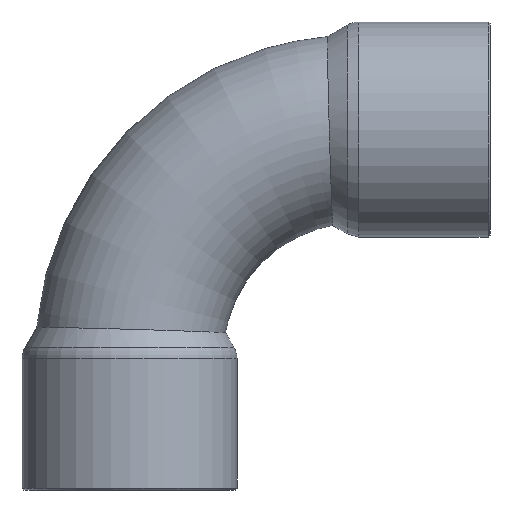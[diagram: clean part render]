
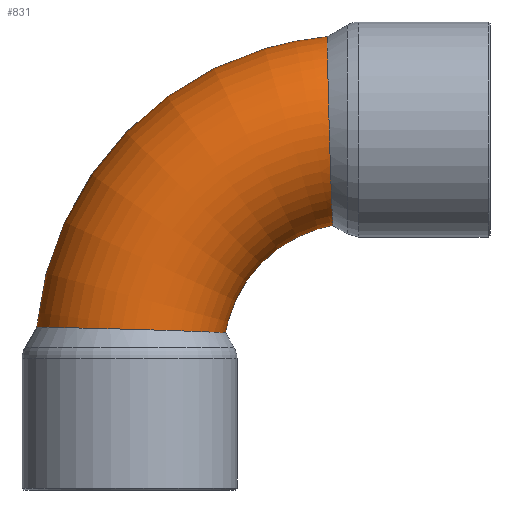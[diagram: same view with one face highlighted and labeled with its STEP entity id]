
A CAD part, left-side view. The second image highlights one B-rep face of the part: STEP entity #831.
In plain terms, the highlighted toroidal (fillet/blend) face has major radius 22.9 mm and minor radius 9.525 mm.
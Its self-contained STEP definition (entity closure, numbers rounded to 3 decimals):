
#444=CARTESIAN_POINT('',(0.,2.896,32.295));
#445=VERTEX_POINT('',#444);
#446=CARTESIAN_POINT('',(0.,2.896,32.295));
#447=CARTESIAN_POINT('',(0.64,2.896,32.295));
#448=CARTESIAN_POINT('',(1.279,2.895,32.231));
#449=CARTESIAN_POINT('',(2.522,2.89,31.976));
#450=CARTESIAN_POINT('',(3.125,2.886,31.789));
#451=CARTESIAN_POINT('',(4.865,2.871,31.053));
#452=CARTESIAN_POINT('',(5.916,2.856,30.337));
#453=CARTESIAN_POINT('',(7.679,2.817,28.536));
#454=CARTESIAN_POINT('',(8.374,2.792,27.469));
#455=CARTESIAN_POINT('',(9.31,2.735,25.125));
#456=CARTESIAN_POINT('',(9.542,2.702,23.871));
#457=CARTESIAN_POINT('',(9.506,2.63,21.34));
#458=CARTESIAN_POINT('',(9.237,2.591,20.088));
#459=CARTESIAN_POINT('',(8.241,2.513,17.792));
#460=CARTESIAN_POINT('',(7.536,2.474,16.765));
#461=CARTESIAN_POINT('',(5.863,2.409,15.122));
#462=CARTESIAN_POINT('',(4.942,2.381,14.488));
#463=CARTESIAN_POINT('',(3.138,2.344,13.665));
#464=CARTESIAN_POINT('',(2.298,2.332,13.414));
#465=CARTESIAN_POINT('',(0.92,2.322,13.203));
#466=CARTESIAN_POINT('',(0.4,2.32,13.166));
#467=CARTESIAN_POINT('',(-0.663,2.321,13.18));
#468=CARTESIAN_POINT('',(-1.203,2.323,13.233));
#469=CARTESIAN_POINT('',(-2.745,2.337,13.521));
#470=CARTESIAN_POINT('',(-3.717,2.354,13.872));
#471=CARTESIAN_POINT('',(-5.716,2.403,14.986));
#472=CARTESIAN_POINT('',(-6.684,2.437,15.813));
#473=CARTESIAN_POINT('',(-8.211,2.511,17.749));
#474=CARTESIAN_POINT('',(-8.772,2.549,18.827));
#475=CARTESIAN_POINT('',(-9.455,2.622,21.101));
#476=CARTESIAN_POINT('',(-9.585,2.657,22.274));
#477=CARTESIAN_POINT('',(-9.415,2.721,24.604));
#478=CARTESIAN_POINT('',(-9.119,2.75,25.742));
#479=CARTESIAN_POINT('',(-8.126,2.801,27.866));
#480=CARTESIAN_POINT('',(-7.434,2.823,28.833));
#481=CARTESIAN_POINT('',(-5.715,2.859,30.48));
#482=CARTESIAN_POINT('',(-4.699,2.873,31.14));
#483=CARTESIAN_POINT('',(-2.447,2.892,32.057));
#484=CARTESIAN_POINT('',(-1.23,2.896,32.295));
#485=CARTESIAN_POINT('',(0.,2.896,32.295));
#486=B_SPLINE_CURVE_WITH_KNOTS('',3,(#446,#447,#448,#449,#450,#451,#452,#453,#454,#455,#456,#457,#458,#459,#460,#461,#462,#463,#464,#465,#466,#467,#468,#469,#470,#471,#472,#473,#474,#475,#476,#477,#478,#479,#480,#481,#482,#483,#484,#485),.UNSPECIFIED.,.T.,.U.,(4,2,2,2,2,2,2,2,2,2,2,2,2,2,2,2,2,2,2,4),(-6.013,-5.821,-5.632,-5.254,-4.876,-4.497,-4.116,-3.746,-3.413,-3.151,-2.995,-2.832,-2.524,-2.145,-1.784,-1.433,-1.083,-0.729,-0.369,0.0),.UNSPECIFIED.);
#487=EDGE_CURVE('',#445,#445,#486,.T.);
#688=CARTESIAN_POINT('',(0.,32.295,2.896));
#689=VERTEX_POINT('',#688);
#690=CARTESIAN_POINT('',(0.,32.295,2.896));
#691=CARTESIAN_POINT('',(-0.64,32.295,2.896));
#692=CARTESIAN_POINT('',(-1.279,32.231,2.895));
#693=CARTESIAN_POINT('',(-2.522,31.976,2.89));
#694=CARTESIAN_POINT('',(-3.125,31.789,2.886));
#695=CARTESIAN_POINT('',(-4.865,31.053,2.871));
#696=CARTESIAN_POINT('',(-5.916,30.337,2.856));
#697=CARTESIAN_POINT('',(-7.679,28.536,2.817));
#698=CARTESIAN_POINT('',(-8.374,27.469,2.792));
#699=CARTESIAN_POINT('',(-9.31,25.125,2.735));
#700=CARTESIAN_POINT('',(-9.542,23.871,2.702));
#701=CARTESIAN_POINT('',(-9.506,21.34,2.63));
#702=CARTESIAN_POINT('',(-9.237,20.088,2.591));
#703=CARTESIAN_POINT('',(-8.241,17.792,2.513));
#704=CARTESIAN_POINT('',(-7.536,16.765,2.474));
#705=CARTESIAN_POINT('',(-5.863,15.122,2.409));
#706=CARTESIAN_POINT('',(-4.942,14.488,2.381));
#707=CARTESIAN_POINT('',(-3.138,13.665,2.344));
#708=CARTESIAN_POINT('',(-2.298,13.414,2.332));
#709=CARTESIAN_POINT('',(-0.92,13.203,2.322));
#710=CARTESIAN_POINT('',(-0.4,13.166,2.32));
#711=CARTESIAN_POINT('',(0.663,13.18,2.321));
#712=CARTESIAN_POINT('',(1.203,13.233,2.323));
#713=CARTESIAN_POINT('',(2.745,13.521,2.337));
#714=CARTESIAN_POINT('',(3.717,13.872,2.354));
#715=CARTESIAN_POINT('',(5.716,14.986,2.403));
#716=CARTESIAN_POINT('',(6.684,15.813,2.437));
#717=CARTESIAN_POINT('',(8.211,17.749,2.511));
#718=CARTESIAN_POINT('',(8.772,18.827,2.549));
#719=CARTESIAN_POINT('',(9.455,21.101,2.622));
#720=CARTESIAN_POINT('',(9.585,22.274,2.657));
#721=CARTESIAN_POINT('',(9.415,24.604,2.721));
#722=CARTESIAN_POINT('',(9.119,25.742,2.75));
#723=CARTESIAN_POINT('',(8.126,27.866,2.801));
#724=CARTESIAN_POINT('',(7.434,28.833,2.823));
#725=CARTESIAN_POINT('',(5.715,30.48,2.859));
#726=CARTESIAN_POINT('',(4.699,31.14,2.873));
#727=CARTESIAN_POINT('',(2.447,32.057,2.892));
#728=CARTESIAN_POINT('',(1.23,32.295,2.896));
#729=CARTESIAN_POINT('',(0.0,32.295,2.896));
#730=B_SPLINE_CURVE_WITH_KNOTS('',3,(#690,#691,#692,#693,#694,#695,#696,#697,#698,#699,#700,#701,#702,#703,#704,#705,#706,#707,#708,#709,#710,#711,#712,#713,#714,#715,#716,#717,#718,#719,#720,#721,#722,#723,#724,#725,#726,#727,#728,#729),.UNSPECIFIED.,.T.,.U.,(4,2,2,2,2,2,2,2,2,2,2,2,2,2,2,2,2,2,2,4),(-6.013,-5.821,-5.632,-5.254,-4.876,-4.497,-4.116,-3.746,-3.413,-3.151,-2.995,-2.832,-2.524,-2.145,-1.784,-1.433,-1.083,-0.729,-0.369,0.0),.UNSPECIFIED.);
#731=EDGE_CURVE('',#689,#689,#730,.T.);
#820=CARTESIAN_POINT('',(0.0,0.0,0.0));
#821=DIRECTION('',(1.0,0.0,0.0));
#822=DIRECTION('',(0.0,0.0,-1.0));
#823=AXIS2_PLACEMENT_3D('',#820,#821,#822);
#824=TOROIDAL_SURFACE('',#823,22.9,9.525);
#825=ORIENTED_EDGE('',*,*,#487,.T.);
#826=EDGE_LOOP('',(#825));
#827=FACE_OUTER_BOUND('',#826,.T.);
#828=ORIENTED_EDGE('',*,*,#731,.T.);
#829=EDGE_LOOP('',(#828));
#830=FACE_BOUND('',#829,.T.);
#831=ADVANCED_FACE('',(#827,#830),#824,.T.);
